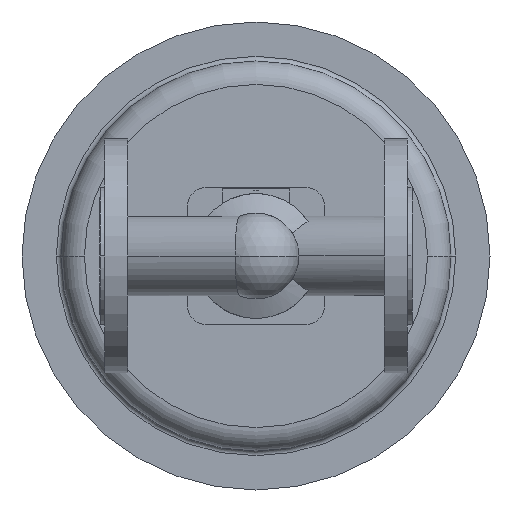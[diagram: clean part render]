
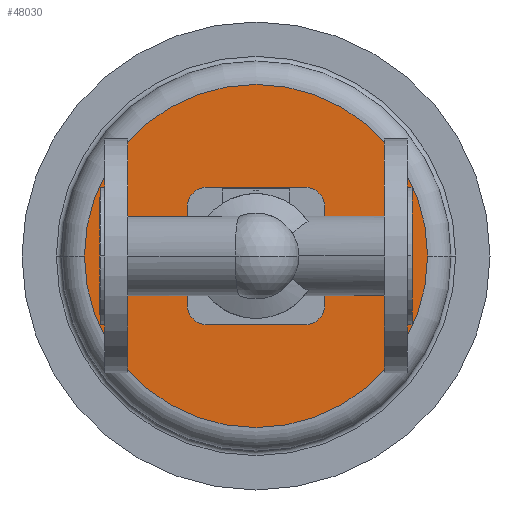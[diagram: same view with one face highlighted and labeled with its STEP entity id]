
A CAD part, front view. The second image highlights one B-rep face of the part: STEP entity #48030.
In plain terms, the highlighted planar face has unit normal (0, -1, 0).
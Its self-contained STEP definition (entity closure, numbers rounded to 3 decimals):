
#34470=CARTESIAN_POINT('',(210.,363.,0.));
#34480=VERTEX_POINT('',#34470);
#34510=CARTESIAN_POINT('',(100.,363.,0.));
#34520=DIRECTION('',(0.,1.,0.));
#34530=DIRECTION('',(1.,0.,0.));
#34540=AXIS2_PLACEMENT_3D('',#34510,#34520,#34530);
#34550=CIRCLE('',#34540,110.);
#34560=CARTESIAN_POINT('',(-10.,363.,0.));
#34570=VERTEX_POINT('',#34560);
#34580=EDGE_CURVE('',#34570,#34480,#34550,.T.);
#35250=CARTESIAN_POINT('',(165.,363.,0.));
#35260=VERTEX_POINT('',#35250);
#35290=CARTESIAN_POINT('',(150.,363.,0.));
#35300=DIRECTION('',(0.,1.,0.));
#35310=DIRECTION('',(1.,0.,0.));
#35320=AXIS2_PLACEMENT_3D('',#35290,#35300,#35310);
#35330=CIRCLE('',#35320,15.);
#35340=CARTESIAN_POINT('',(135.,363.,0.));
#35350=VERTEX_POINT('',#35340);
#35360=EDGE_CURVE('',#35260,#35350,#35330,.T.);
#35670=CARTESIAN_POINT('',(35.,363.,0.));
#35680=VERTEX_POINT('',#35670);
#35840=CARTESIAN_POINT('',(65.,363.,0.));
#35850=VERTEX_POINT('',#35840);
#35880=CARTESIAN_POINT('',(50.,363.,0.));
#35890=DIRECTION('',(0.,1.,0.));
#35900=DIRECTION('',(1.,0.,0.));
#35910=AXIS2_PLACEMENT_3D('',#35880,#35890,#35900);
#35920=CIRCLE('',#35910,15.);
#35930=EDGE_CURVE('',#35850,#35680,#35920,.T.);
#36070=CARTESIAN_POINT('',(118.45,363.,0.));
#36080=VERTEX_POINT('',#36070);
#36300=CARTESIAN_POINT('',(81.55,363.,0.));
#36310=VERTEX_POINT('',#36300);
#36340=CARTESIAN_POINT('',(100.,363.,0.));
#36350=DIRECTION('',(0.,1.,0.));
#36360=DIRECTION('',(1.,0.,0.));
#36370=AXIS2_PLACEMENT_3D('',#36340,#36350,#36360);
#36380=CIRCLE('',#36370,18.45);
#36390=EDGE_CURVE('',#36310,#36080,#36380,.T.);
#47780=CARTESIAN_POINT('',(155.,363.,0.));
#47790=DIRECTION('',(0.,-1.,0.));
#47800=DIRECTION('',(-1.,0.,0.));
#47810=AXIS2_PLACEMENT_3D('',#47780,#47790,#47800);
#47820=PLANE('',#47810);
#47830=EDGE_CURVE('',#36080,#36310,#36380,.T.);
#47840=ORIENTED_EDGE('',*,*,#47830,.T.);
#47850=ORIENTED_EDGE('',*,*,#36390,.T.);
#47860=EDGE_LOOP('',(#47850,#47840));
#47870=FACE_BOUND('',#47860,.T.);
#47880=EDGE_CURVE('',#35680,#35850,#35920,.T.);
#47890=ORIENTED_EDGE('',*,*,#47880,.T.);
#47900=ORIENTED_EDGE('',*,*,#35930,.T.);
#47910=EDGE_LOOP('',(#47900,#47890));
#47920=FACE_BOUND('',#47910,.T.);
#47930=EDGE_CURVE('',#35350,#35260,#35330,.T.);
#47940=ORIENTED_EDGE('',*,*,#47930,.T.);
#47950=ORIENTED_EDGE('',*,*,#35360,.T.);
#47960=EDGE_LOOP('',(#47950,#47940));
#47970=FACE_BOUND('',#47960,.T.);
#47980=EDGE_CURVE('',#34480,#34570,#34550,.T.);
#47990=ORIENTED_EDGE('',*,*,#47980,.F.);
#48000=ORIENTED_EDGE('',*,*,#34580,.F.);
#48010=EDGE_LOOP('',(#48000,#47990));
#48020=FACE_OUTER_BOUND('',#48010,.T.);
#48030=ADVANCED_FACE('',(#47870,#47920,#47970,#48020),#47820,.T.);
